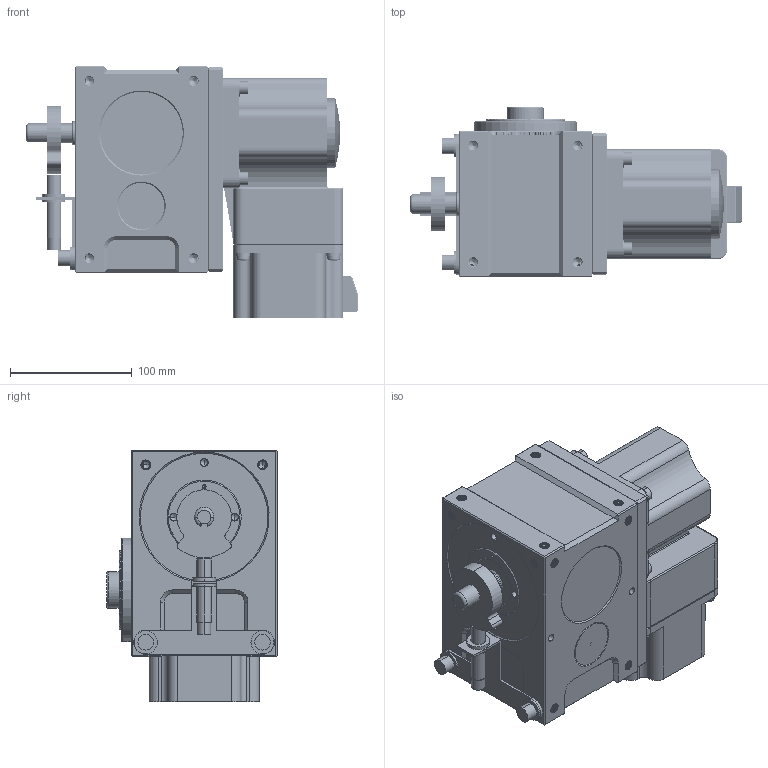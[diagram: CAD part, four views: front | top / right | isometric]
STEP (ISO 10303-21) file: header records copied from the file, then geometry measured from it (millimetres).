
FILE_DESCRIPTION (( 'STEP AP214' ), '1' );
FILE_NAME ('ER-RU60DF英锐凸轮分割器壳体法兰面销孔3D水平直联式右侧ZDWS(电话15062628977)AA.STEP', '2022-06-21T04:46:57', ( '微软用户' ), ( '微软中国' ), 'SwSTEP 2.0', 'SolidWorks 2017', '' );
FILE_SCHEMA (( 'AUTOMOTIVE_DESIGN' ));
Length unit declared in the file: millimetre
Products named in the file (1): ER-RU60DF英锐凸轮分割器壳体法兰面销孔3D水平直联式右侧ZDWS(电话15062628977)AA
Bounding box: 273.25 x 140 x 207 mm (x, y, z)
Volume: 3865451.8 mm3; surface area: 292874.5 mm2
Topology: 3 solids, 4 shells, 2337 faces, 6030 edges, 3786 vertices
Faces by surface type: cylinder 906, plane 538, bspline 510, cone 352, torus 27, sphere 4
Entity records: 185336 total; most frequent: CARTESIAN_POINT 135506, ORIENTED_EDGE 11884, DIRECTION 7749, EDGE_CURVE 5942, VERTEX_POINT 3786, AXIS2_PLACEMENT_3D 2736, EDGE_LOOP 2552, FACE_OUTER_BOUND 2337
